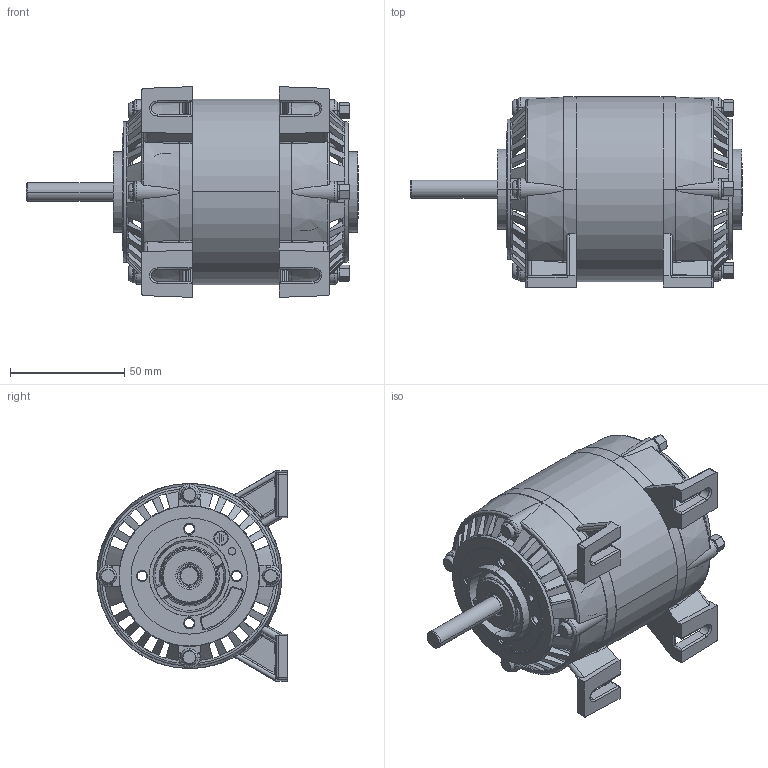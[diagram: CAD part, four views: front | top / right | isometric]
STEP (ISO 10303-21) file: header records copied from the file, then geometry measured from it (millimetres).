
FILE_DESCRIPTION (( 'STEP AP214' ), '1' );
FILE_NAME ('SD41 VENT F.STEP', '2021-07-05T09:54:39', ( '' ), ( '' ), 'SwSTEP 2.0', 'SolidWorks 2020', '' );
FILE_SCHEMA (( 'AUTOMOTIVE_DESIGN' ));
Length unit declared in the file: millimetre
Products named in the file (1): SD41 VENT F
Bounding box: 145.12 x 83.35 x 92.08 mm (x, y, z)
Surface area: 58435.7 mm2 (no closed solid volume)
Topology: 0 solids, 22 shells, 800 faces, 2945 edges, 2089 vertices
Faces by surface type: plane 317, cylinder 272, cone 115, bspline 72, torus 20, sphere 4
Entity records: 47325 total; most frequent: CARTESIAN_POINT 14574, ORIENTED_EDGE 4976, DIRECTION 4741, EDGE_CURVE 2933, VERTEX_POINT 2089, AXIS2_PLACEMENT_3D 1684, VECTOR 1373, LINE 1373
